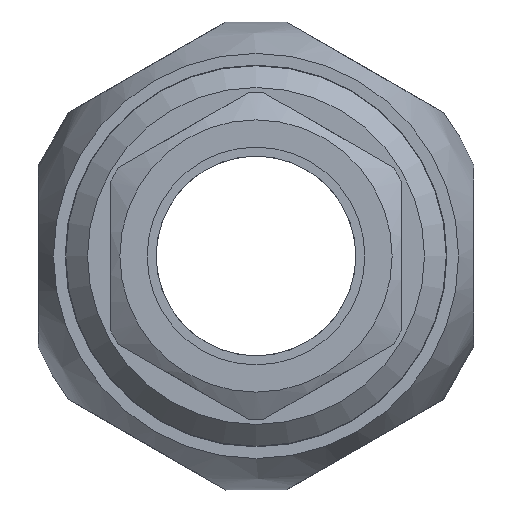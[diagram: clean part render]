
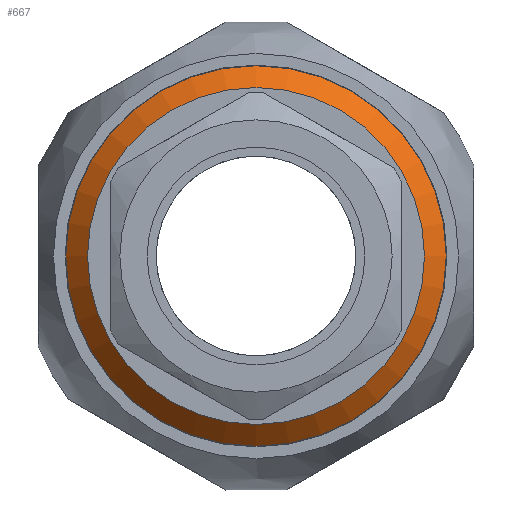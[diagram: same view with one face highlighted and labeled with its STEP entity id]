
A CAD part, left-side view. The second image highlights one B-rep face of the part: STEP entity #667.
In plain terms, the highlighted conical face has half-angle 45 degrees and reference radius 9.88 mm.
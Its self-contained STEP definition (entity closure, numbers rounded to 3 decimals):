
#81=CONICAL_SURFACE('',#844,9.88,0.785);
#150=FACE_BOUND('',#261,.T.);
#186=FACE_OUTER_BOUND('',#260,.T.);
#260=EDGE_LOOP('',(#535));
#261=EDGE_LOOP('',(#536));
#311=CIRCLE('',#841,10.48);
#313=CIRCLE('',#845,9.28);
#361=VERTEX_POINT('',#1521);
#363=VERTEX_POINT('',#1527);
#425=EDGE_CURVE('',#361,#361,#311,.T.);
#427=EDGE_CURVE('',#363,#363,#313,.T.);
#535=ORIENTED_EDGE('',*,*,#425,.T.);
#536=ORIENTED_EDGE('',*,*,#427,.T.);
#667=ADVANCED_FACE('',(#186,#150),#81,.T.);
#841=AXIS2_PLACEMENT_3D('',#1522,#994,#995);
#844=AXIS2_PLACEMENT_3D('',#1526,#1000,#1001);
#845=AXIS2_PLACEMENT_3D('',#1528,#1002,#1003);
#994=DIRECTION('center_axis',(1.,0.,0.));
#995=DIRECTION('ref_axis',(0.,-1.,0.));
#1000=DIRECTION('center_axis',(-1.,0.,0.));
#1001=DIRECTION('ref_axis',(0.,-1.,0.));
#1002=DIRECTION('center_axis',(-1.,0.,0.));
#1003=DIRECTION('ref_axis',(0.,-1.,0.));
#1521=CARTESIAN_POINT('',(7.05,10.48,0.));
#1522=CARTESIAN_POINT('Origin',(7.05,0.,0.));
#1526=CARTESIAN_POINT('Origin',(7.65,0.,0.));
#1527=CARTESIAN_POINT('',(8.25,9.28,0.));
#1528=CARTESIAN_POINT('Origin',(8.25,0.,0.));
